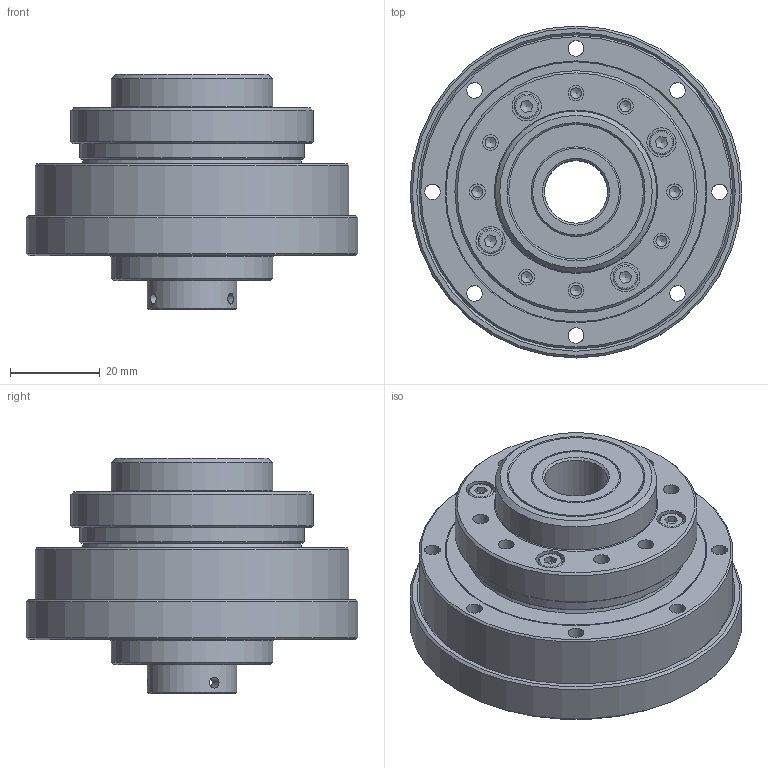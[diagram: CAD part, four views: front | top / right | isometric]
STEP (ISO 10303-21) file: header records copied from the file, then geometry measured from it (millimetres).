
FILE_DESCRIPTION(/* description */ (''),/* implementation_level */ '2;1');
FILE_NAME(/* name */ '\\Hiwin.tw\dfs\TB00F\研發課二組\\X2\6A5F5BC67D1A\X0\\1.設計\01-DT\DT-圖面\2.\X2\7D4454085716\X0\\模型\DGH-AH\DGH-14-AH\DGH-14-XX-AH_v2.stp',/* time_stamp */ '2024-09-26T14:12:16+08:00',/* author */ ('chiayu.chen'),/* organization */ (''),/* preprocessor_version */ 'ST-DEVELOPER v15.2',/* originating_system */ 'Autodesk Inventor 2014',/* authorisation */ '');
FILE_SCHEMA (('AUTOMOTIVE_DESIGN { 1 0 10303 214 3 1 1 }'));
Length unit declared in the file: centimetre
Products named in the file (1): WTI-S-14-AH-std
Bounding box: 74 x 74 x 52.5 mm (x, y, z)
Volume: 113284.8 mm3; surface area: 25342.4 mm2
Topology: 1 solids, 17 shells, 286 faces, 621 edges, 409 vertices
Faces by surface type: plane 111, cylinder 93, cone 68, torus 14
Full cylindrical faces by diameter (mm): 2.459 x21, 3 x6, 3.5 x40, 5.5 x4, 5.7 x2, 6.5 x6, 14 x2, 14.5 x1, 20 x2, 30 x2, 36 x2, 50 x1, 54 x1, 58 x1, 70 x1, 74 x1
Entity records: 6480 total; most frequent: CARTESIAN_POINT 1227, DIRECTION 1124, ORIENTED_EDGE 706, EDGE_LOOP 538, AXIS2_PLACEMENT_3D 526, EDGE_CURVE 353, VERTEX_POINT 317, FACE_BOUND 303
